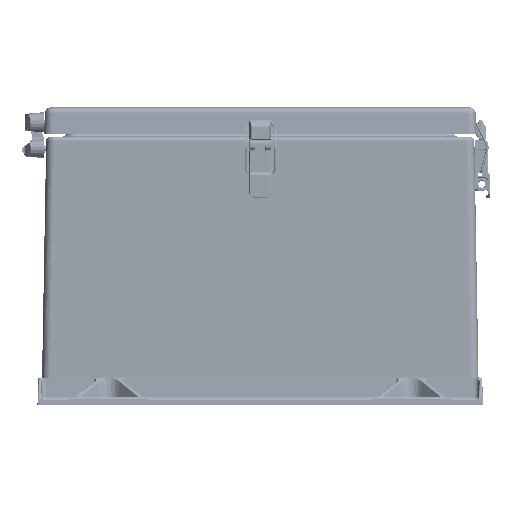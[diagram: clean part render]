
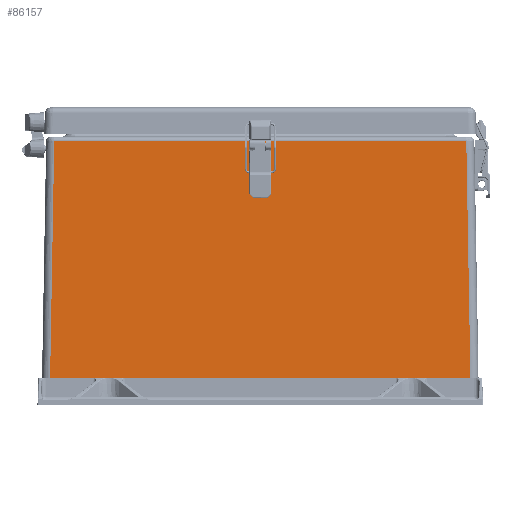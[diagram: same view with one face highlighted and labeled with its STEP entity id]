
A CAD part, front view. The second image highlights one B-rep face of the part: STEP entity #86157.
In plain terms, the highlighted planar face has unit normal (0, -1, 0.018).
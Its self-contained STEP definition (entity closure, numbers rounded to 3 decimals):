
#1106 = EDGE_CURVE ( 'NONE', #90263, #89879, #21397, .T. ) ;
#1110 = EDGE_CURVE ( 'NONE', #91214, #91184, #21063, .T. ) ;
#1273 = EDGE_CURVE ( 'NONE', #62629, #62631, #8469, .T. ) ;
#1274 = EDGE_CURVE ( 'NONE', #90589, #62630, #8454, .T. ) ;
#1275 = EDGE_CURVE ( 'NONE', #62630, #62629, #8475, .T. ) ;
#1276 = EDGE_CURVE ( 'NONE', #62631, #90589, #8477, .T. ) ;
#1277 = EDGE_CURVE ( 'NONE', #89879, #90263, #20987, .T. ) ;
#1278 = EDGE_CURVE ( 'NONE', #91184, #91214, #21049, .T. ) ;
#8454 = LINE ( 'NONE', #48782, #8471 ) ;
#8469 = LINE ( 'NONE', #48788, #8470 ) ;
#8470 = VECTOR ( 'NONE', #48728, 39.37 ) ;
#8471 = VECTOR ( 'NONE', #48741, 39.37 ) ;
#8475 = LINE ( 'NONE', #48726, #8476 ) ;
#8476 = VECTOR ( 'NONE', #48718, 39.37 ) ;
#8477 = LINE ( 'NONE', #48789, #8479 ) ;
#8479 = VECTOR ( 'NONE', #48749, 39.37 ) ;
#10099 = FACE_BOUND ( 'NONE', #14408, .T. ) ;
#10101 = FACE_BOUND ( 'NONE', #14393, .T. ) ;
#10105 = FACE_OUTER_BOUND ( 'NONE', #14392, .T. ) ;
#11554 = CARTESIAN_POINT ( 'NONE',  ( 0., -9.889, 11.538 ) ) ;
#11688 = CARTESIAN_POINT ( 'NONE',  ( 0., -9.894, 11.257 ) ) ;
#14392 = EDGE_LOOP ( 'NONE', ( #120783, #120784, #120785, #120786 ) ) ;
#14393 = EDGE_LOOP ( 'NONE', ( #120781, #120782 ) ) ;
#14408 = EDGE_LOOP ( 'NONE', ( #120779, #120780 ) ) ;
#20987 =( BOUNDED_CURVE ( )  B_SPLINE_CURVE ( 3, ( #48709, #48722, #48771, #48760 ),
 .UNSPECIFIED., .F., .T. ) 
 B_SPLINE_CURVE_WITH_KNOTS ( ( 4, 4 ),
 ( 0., 3.142 ),
 .UNSPECIFIED. ) 
 CURVE ( )  GEOMETRIC_REPRESENTATION_ITEM ( )  RATIONAL_B_SPLINE_CURVE ( ( 1., 0.333, 0.333, 1. ) ) 
 REPRESENTATION_ITEM ( '' )  );
#21049 =( BOUNDED_CURVE ( )  B_SPLINE_CURVE ( 3, ( #48723, #48737, #48750, #48695 ),
 .UNSPECIFIED., .F., .T. ) 
 B_SPLINE_CURVE_WITH_KNOTS ( ( 4, 4 ),
 ( 0., 3.142 ),
 .UNSPECIFIED. ) 
 CURVE ( )  GEOMETRIC_REPRESENTATION_ITEM ( )  RATIONAL_B_SPLINE_CURVE ( ( 1., 0.333, 0.333, 1. ) ) 
 REPRESENTATION_ITEM ( '' )  );
#21063 =( BOUNDED_CURVE ( )  B_SPLINE_CURVE ( 3, ( #109565, #108478, #108892, #109593 ),
 .UNSPECIFIED., .F., .T. ) 
 B_SPLINE_CURVE_WITH_KNOTS ( ( 4, 4 ),
 ( 3.142, 6.283 ),
 .UNSPECIFIED. ) 
 CURVE ( )  GEOMETRIC_REPRESENTATION_ITEM ( )  RATIONAL_B_SPLINE_CURVE ( ( 1., 0.333, 0.333, 1. ) ) 
 REPRESENTATION_ITEM ( '' )  );
#21397 =( BOUNDED_CURVE ( )  B_SPLINE_CURVE ( 3, ( #108425, #108833, #109406, #108403 ),
 .UNSPECIFIED., .F., .T. ) 
 B_SPLINE_CURVE_WITH_KNOTS ( ( 4, 4 ),
 ( 3.142, 6.283 ),
 .UNSPECIFIED. ) 
 CURVE ( )  GEOMETRIC_REPRESENTATION_ITEM ( )  RATIONAL_B_SPLINE_CURVE ( ( 1., 0.333, 0.333, 1. ) ) 
 REPRESENTATION_ITEM ( '' )  );
#48695 = CARTESIAN_POINT ( 'NONE',  ( 0., -9.894, 11.257 ) ) ;
#48709 = CARTESIAN_POINT ( 'NONE',  ( 0., -9.9, 10.913 ) ) ;
#48718 = DIRECTION ( 'NONE',  ( -0.017, -0.017, -1. ) ) ;
#48722 = CARTESIAN_POINT ( 'NONE',  ( 0.281, -9.9, 10.913 ) ) ;
#48723 = CARTESIAN_POINT ( 'NONE',  ( 0., -9.889, 11.538 ) ) ;
#48726 = CARTESIAN_POINT ( 'NONE',  ( -9.745, -10.09, -0.007 ) ) ;
#48728 = DIRECTION ( 'NONE',  ( 1., 0., 0. ) ) ;
#48737 = CARTESIAN_POINT ( 'NONE',  ( 0.281, -9.889, 11.537 ) ) ;
#48741 = DIRECTION ( 'NONE',  ( -1., 0., 0. ) ) ;
#48749 = DIRECTION ( 'NONE',  ( -0.017, 0.017, 1. ) ) ;
#48750 = CARTESIAN_POINT ( 'NONE',  ( 0.281, -9.894, 11.257 ) ) ;
#48760 = CARTESIAN_POINT ( 'NONE',  ( 0., -9.904, 10.632 ) ) ;
#48771 = CARTESIAN_POINT ( 'NONE',  ( 0.281, -9.904, 10.632 ) ) ;
#48782 = CARTESIAN_POINT ( 'NONE',  ( -9.533, -9.881, 11.951 ) ) ;
#48788 = CARTESIAN_POINT ( 'NONE',  ( -10.12, -10.09, 0. ) ) ;
#48789 = CARTESIAN_POINT ( 'NONE',  ( 9.739, -10.084, 0.347 ) ) ;
#55261 = CARTESIAN_POINT ( 'NONE',  ( -10.12, -10.09, 0. ) ) ;
#55263 = PLANE ( 'NONE',  #114277 ) ;
#55265 = DIRECTION ( 'NONE',  ( 0., -1., 0.017 ) ) ;
#55267 = DIRECTION ( 'NONE',  ( 0., -0.017, -1. ) ) ;
#62629 = VERTEX_POINT ( 'NONE', #63457 ) ;
#62630 = VERTEX_POINT ( 'NONE', #63458 ) ;
#62631 = VERTEX_POINT ( 'NONE', #63459 ) ;
#63457 = CARTESIAN_POINT ( 'NONE',  ( -9.745, -10.09, 0. ) ) ;
#63458 = CARTESIAN_POINT ( 'NONE',  ( -9.536, -9.881, 11.951 ) ) ;
#63459 = CARTESIAN_POINT ( 'NONE',  ( 9.745, -10.09, 0. ) ) ;
#86157 = ADVANCED_FACE ( 'NONE', ( #10099, #10101, #10105 ), #55263, .T. ) ;
#89879 = VERTEX_POINT ( 'NONE', #102466 ) ;
#90263 = VERTEX_POINT ( 'NONE', #102609 ) ;
#90589 = VERTEX_POINT ( 'NONE', #103722 ) ;
#91184 = VERTEX_POINT ( 'NONE', #11554 ) ;
#91214 = VERTEX_POINT ( 'NONE', #11688 ) ;
#102466 = CARTESIAN_POINT ( 'NONE',  ( 0., -9.9, 10.913 ) ) ;
#102609 = CARTESIAN_POINT ( 'NONE',  ( 0., -9.904, 10.632 ) ) ;
#103722 = CARTESIAN_POINT ( 'NONE',  ( 9.536, -9.881, 11.951 ) ) ;
#108403 = CARTESIAN_POINT ( 'NONE',  ( 0., -9.9, 10.913 ) ) ;
#108425 = CARTESIAN_POINT ( 'NONE',  ( 0., -9.904, 10.632 ) ) ;
#108478 = CARTESIAN_POINT ( 'NONE',  ( -0.281, -9.894, 11.257 ) ) ;
#108833 = CARTESIAN_POINT ( 'NONE',  ( -0.281, -9.904, 10.632 ) ) ;
#108892 = CARTESIAN_POINT ( 'NONE',  ( -0.281, -9.889, 11.537 ) ) ;
#109406 = CARTESIAN_POINT ( 'NONE',  ( -0.281, -9.9, 10.913 ) ) ;
#109565 = CARTESIAN_POINT ( 'NONE',  ( 0., -9.894, 11.257 ) ) ;
#109593 = CARTESIAN_POINT ( 'NONE',  ( 0., -9.889, 11.538 ) ) ;
#114277 = AXIS2_PLACEMENT_3D ( 'NONE', #55261, #55265, #55267 ) ;
#120779 = ORIENTED_EDGE ( 'NONE', *, *, #1277, .T. ) ;
#120780 = ORIENTED_EDGE ( 'NONE', *, *, #1106, .T. ) ;
#120781 = ORIENTED_EDGE ( 'NONE', *, *, #1278, .T. ) ;
#120782 = ORIENTED_EDGE ( 'NONE', *, *, #1110, .T. ) ;
#120783 = ORIENTED_EDGE ( 'NONE', *, *, #1276, .T. ) ;
#120784 = ORIENTED_EDGE ( 'NONE', *, *, #1274, .T. ) ;
#120785 = ORIENTED_EDGE ( 'NONE', *, *, #1275, .T. ) ;
#120786 = ORIENTED_EDGE ( 'NONE', *, *, #1273, .T. ) ;
